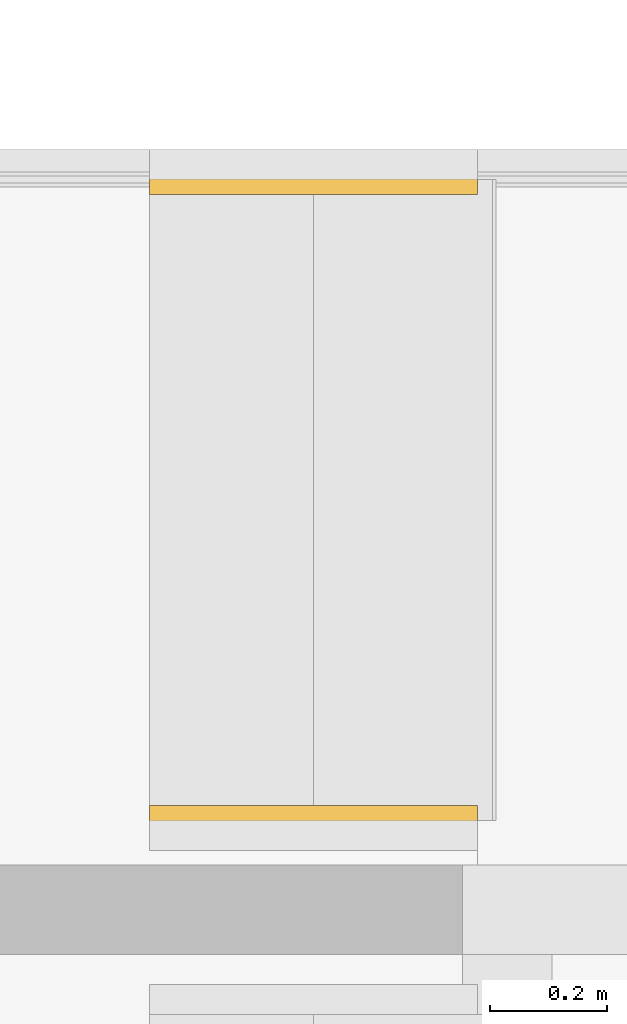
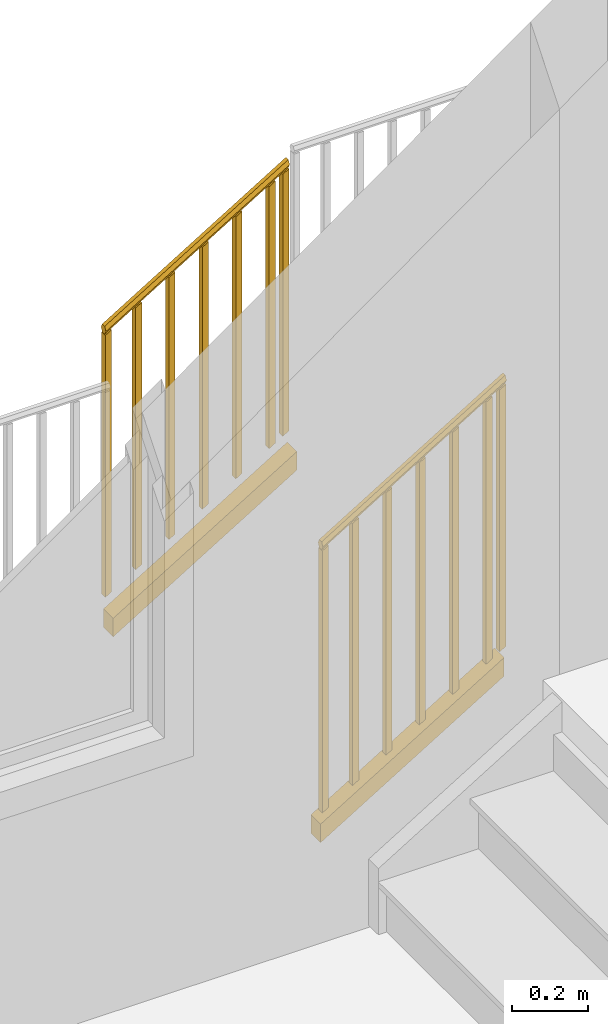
# One storey, part 12 of 21: 2 railings, 1 element without a shape of its own.
"""IFC2X3 building model written with IfcOpenShell, lengths in feet."""

from ifc_helpers import new_model, entity, si_unit, converted_unit, derived_unit, direction, frame, origin, place, context, subcontext, project, spatial, faceted_brep, element, aggregate, save


model = new_model("IFC2X3")

# Units and contexts
model_context = context("Model", 3, precision=0.0001, world=origin(), true_north=direction((6.12303176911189e-17, 1.0)))
body_context = subcontext(model_context, "Body", "Model", "MODEL_VIEW")
ifc_project = project(units=[converted_unit("LENGTHUNIT", "FOOT", entity("IfcRatioMeasure", 0.3048), si_unit("LENGTHUNIT", "METRE"), dimensions=[1, 0, 0, 0, 0, 0, 0]), converted_unit("AREAUNIT", "SQUARE FOOT", entity("IfcRatioMeasure", 0.09290304), si_unit("AREAUNIT", "SQUARE_METRE"), dimensions=[2, 0, 0, 0, 0, 0, 0]), converted_unit("VOLUMEUNIT", "CUBIC FOOT", entity("IfcRatioMeasure", 0.028316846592), si_unit("VOLUMEUNIT", "CUBIC_METRE"), dimensions=[3, 0, 0, 0, 0, 0, 0]), converted_unit("PLANEANGLEUNIT", "DEGREE", entity("IfcRatioMeasure", 0.0174532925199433), si_unit("PLANEANGLEUNIT", "RADIAN"), dimensions=[0, 0, 0, 0, 0, 0, 0]), si_unit("MASSUNIT", "GRAM", prefix="KILO"), derived_unit("MASSDENSITYUNIT", [(si_unit("MASSUNIT", "GRAM", prefix="KILO"), 1), (si_unit("LENGTHUNIT", "METRE"), -3)]), si_unit("TIMEUNIT", "SECOND"), si_unit("FREQUENCYUNIT", "HERTZ"), si_unit("THERMODYNAMICTEMPERATUREUNIT", "DEGREE_CELSIUS"), derived_unit("THERMALTRANSMITTANCEUNIT", [(si_unit("MASSUNIT", "GRAM", prefix="KILO"), 1), (si_unit("THERMODYNAMICTEMPERATUREUNIT", "KELVIN"), -1), (si_unit("TIMEUNIT", "SECOND"), -3)]), derived_unit("VOLUMETRICFLOWRATEUNIT", [(si_unit("LENGTHUNIT", "METRE"), 3), (si_unit("TIMEUNIT", "SECOND"), -1)]), si_unit("ELECTRICCURRENTUNIT", "AMPERE"), si_unit("ELECTRICVOLTAGEUNIT", "VOLT"), si_unit("POWERUNIT", "WATT"), si_unit("FORCEUNIT", "NEWTON"), si_unit("ILLUMINANCEUNIT", "LUX"), si_unit("LUMINOUSFLUXUNIT", "LUMEN"), si_unit("LUMINOUSINTENSITYUNIT", "CANDELA"), derived_unit("USERDEFINED", [(si_unit("MASSUNIT", "GRAM", prefix="KILO"), -1), (si_unit("LENGTHUNIT", "METRE"), -2), (si_unit("TIMEUNIT", "SECOND"), 3), (si_unit("LUMINOUSFLUXUNIT", "LUMEN"), 1)]), derived_unit("LINEARVELOCITYUNIT", [(si_unit("LENGTHUNIT", "METRE"), 1), (si_unit("TIMEUNIT", "SECOND"), -1)]), si_unit("PRESSUREUNIT", "PASCAL"), derived_unit("USERDEFINED", [(si_unit("LENGTHUNIT", "METRE"), -2), (si_unit("MASSUNIT", "GRAM", prefix="KILO"), 1), (si_unit("TIMEUNIT", "SECOND"), -2)])], contexts=[model_context])

# Site, building, storey
site_placement = place(None, origin())
site = spatial("IfcSite", under=ifc_project, at=site_placement, Name="表面", CompositionType="ELEMENT")
building_placement = place(site_placement, origin())
building = spatial("IfcBuilding", under=site, at=building_placement, CompositionType="ELEMENT")
storey_placement = place(building_placement, origin())
storey = spatial("IfcBuildingStorey", under=building, at=storey_placement, Name="Level 1", CompositionType="ELEMENT", Elevation=0.0)

# Stair, railings
stair_placement = place(storey_placement, origin())
stair = element("IfcStair", 1, at=stair_placement, inside=storey, Name="楼梯:7\" max riser 11\" tread", ObjectType="楼梯:7\" max riser 11\" tread", ShapeType="NOTDEFINED")
railing_1_placement = place(stair_placement, frame((13.9650869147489, 17.0521598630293, 0.863628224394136)))
railing_1 = element("IfcRailing", 2, at=railing_1_placement, Name="栏杆扶手:Handrail - Rectangular", ObjectType="栏杆扶手:Handrail - Rectangular", PredefinedType="NOTDEFINED", context=body_context, shape_type="Brep", body=[
    faceted_brep([(1.63541666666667, 0.0156504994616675, 4.09458963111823), (1.63541666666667, 0.0781504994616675, 4.09458963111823), (1.63541666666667, 0.0781504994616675, 1.33037211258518), (1.63541666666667, 0.0156504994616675, 1.33037211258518), (1.69791666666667, 0.0156504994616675, 4.1326912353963), (1.69791666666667, 0.0156504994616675, 1.36847371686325), (1.69791666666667, 0.0781504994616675, 4.1326912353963), (1.69791666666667, 0.0781504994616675, 1.36847371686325)], [[[0, 1, 2, 3]], [[4, 0, 3, 5]], [[6, 4, 5, 7]], [[1, 6, 7, 2]], [[1, 0, 4, 6]], [[3, 2, 7, 5]]]),
    faceted_brep([(1.30208333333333, 0.0156504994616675, 3.89138107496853), (1.30208333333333, 0.0781504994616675, 3.89138107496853), (1.30208333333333, 0.0781504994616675, 1.12716355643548), (1.30208333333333, 0.0156504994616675, 1.12716355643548), (1.36458333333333, 0.0156504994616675, 3.9294826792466), (1.36458333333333, 0.0156504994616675, 1.16526516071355), (1.36458333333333, 0.0781504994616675, 3.9294826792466), (1.36458333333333, 0.0781504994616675, 1.16526516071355)], [[[0, 1, 2, 3]], [[4, 0, 3, 5]], [[6, 4, 5, 7]], [[1, 6, 7, 2]], [[1, 0, 4, 6]], [[3, 2, 7, 5]]]),
    faceted_brep([(0.96875, 0.0156504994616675, 3.68817251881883), (0.96875, 0.0781504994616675, 3.68817251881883), (0.96875, 0.0781504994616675, 0.923955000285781), (0.96875, 0.0156504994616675, 0.923955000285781), (1.03125, 0.0156504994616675, 3.7262741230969), (1.03125, 0.0156504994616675, 0.96205660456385), (1.03125, 0.0781504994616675, 3.7262741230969), (1.03125, 0.0781504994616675, 0.96205660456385)], [[[0, 1, 2, 3]], [[4, 0, 3, 5]], [[6, 4, 5, 7]], [[1, 6, 7, 2]], [[1, 0, 4, 6]], [[3, 2, 7, 5]]]),
    faceted_brep([(0.635416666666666, 0.0156504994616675, 3.48496396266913), (0.635416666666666, 0.0781504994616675, 3.48496396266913), (0.635416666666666, 0.0781504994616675, 0.720746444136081), (0.635416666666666, 0.0156504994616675, 0.72074644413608), (0.697916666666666, 0.0156504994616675, 3.5230655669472), (0.697916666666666, 0.0156504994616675, 0.758848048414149), (0.697916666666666, 0.0781504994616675, 3.5230655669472), (0.697916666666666, 0.0781504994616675, 0.758848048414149)], [[[0, 1, 2, 3]], [[4, 0, 3, 5]], [[6, 4, 5, 7]], [[1, 6, 7, 2]], [[1, 0, 4, 6]], [[3, 2, 7, 5]]]),
    faceted_brep([(0.302083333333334, 0.0156504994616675, 3.28175540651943), (0.302083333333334, 0.0781504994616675, 3.28175540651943), (0.302083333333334, 0.0781504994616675, 0.517537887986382), (0.302083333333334, 0.0156504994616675, 0.517537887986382), (0.364583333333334, 0.0156504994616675, 3.3198570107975), (0.364583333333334, 0.0156504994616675, 0.555639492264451), (0.364583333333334, 0.0781504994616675, 3.3198570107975), (0.364583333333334, 0.0781504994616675, 0.555639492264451)], [[[0, 1, 2, 3]], [[4, 0, 3, 5]], [[6, 4, 5, 7]], [[1, 6, 7, 2]], [[1, 0, 4, 6]], [[3, 2, 7, 5]]]),
    faceted_brep([(1.77083333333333, 0.0156504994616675, 4.17714310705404), (1.77083333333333, 0.0781504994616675, 4.17714310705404), (1.77083333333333, 0.0781504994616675, 1.41292558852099), (1.77083333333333, 0.0156504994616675, 1.41292558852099), (1.83333333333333, 0.0156504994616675, 4.21524471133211), (1.83333333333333, 0.0156504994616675, 1.45102719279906), (1.83333333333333, 0.0781504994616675, 4.21524471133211), (1.83333333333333, 0.0781504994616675, 1.45102719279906)], [[[0, 1, 2, 3]], [[4, 0, 3, 5]], [[6, 4, 5, 7]], [[1, 6, 7, 2]], [[1, 0, 4, 6]], [[3, 2, 7, 5]]]),
    faceted_brep([(0.0, 0.0156504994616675, 3.09759765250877), (0.0, 0.0781504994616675, 3.09759765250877), (0.0, 0.0781504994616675, 0.333380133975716), (0.0, 0.0156504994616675, 0.333380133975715), (0.0625, 0.0156504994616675, 3.13569925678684), (0.0625, 0.0156504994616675, 0.371481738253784), (0.0625, 0.0781504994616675, 3.13569925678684), (0.0625, 0.0781504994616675, 0.371481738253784)], [[[0, 1, 2, 3]], [[4, 0, 3, 5]], [[6, 4, 5, 7]], [[1, 6, 7, 2]], [[1, 0, 4, 6]], [[3, 2, 7, 5]]]),
    faceted_brep([(0.0, 0.213567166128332, 0.195195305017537), (0.0, 0.213567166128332, 0.0), (0.0, 0.0469004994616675, 0.0), (0.0, 0.0469004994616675, 0.195195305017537), (1.83333333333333, 0.213567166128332, 1.31284236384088), (1.83333333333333, 0.046900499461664, 1.31284236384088), (1.83333333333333, 0.0469004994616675, 1.11764705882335), (1.83333333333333, 0.213567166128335, 1.11764705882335)], [[[0, 1, 2, 3]], [[4, 5, 6, 7]], [[2, 1, 7, 6]], [[1, 0, 4, 7]], [[3, 2, 6, 5]], [[0, 3, 5, 4]]]),
    faceted_brep([(0.0, 0.0677338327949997, 3.18865750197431), (0.0, 0.0885671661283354, 3.14639647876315), (0.0, 0.0677338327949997, 3.10413545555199), (0.0, 0.0260671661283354, 3.10413545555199), (0.0, 0.00523383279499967, 3.14639647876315), (0.0, 0.0260671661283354, 3.18865750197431), (1.83333333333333, 0.0260671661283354, 4.30630456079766), (1.83333333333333, 0.00523383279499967, 4.2640435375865), (1.83333333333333, 0.0260671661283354, 4.22178251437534), (1.83333333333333, 0.0677338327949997, 4.22178251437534), (1.83333333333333, 0.0885671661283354, 4.2640435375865), (1.83333333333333, 0.0677338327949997, 4.30630456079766)], [[[0, 1, 2, 3, 4, 5]], [[6, 7, 8, 9, 10, 11]], [[10, 9, 2, 1]], [[9, 8, 3, 2]], [[8, 7, 4, 3]], [[7, 6, 5, 4]], [[6, 11, 0, 5]], [[11, 10, 1, 0]]]),
])
railing_2_placement = place(stair_placement, frame((13.9650869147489, 20.6823936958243, 0.863628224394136)))
railing_2 = element("IfcRailing", 3, at=railing_2_placement, Name="栏杆扶手:Handrail - Rectangular", ObjectType="栏杆扶手:Handrail - Rectangular", PredefinedType="NOTDEFINED", context=body_context, shape_type="Brep", body=[
    faceted_brep([(1.63541666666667, 0.197916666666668, 4.09458963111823), (1.63541666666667, 0.197916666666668, 1.33037211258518), (1.63541666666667, 0.135416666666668, 1.33037211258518), (1.63541666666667, 0.135416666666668, 4.09458963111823), (1.69791666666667, 0.197916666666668, 4.1326912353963), (1.69791666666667, 0.197916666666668, 1.36847371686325), (1.69791666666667, 0.135416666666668, 4.1326912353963), (1.69791666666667, 0.135416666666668, 1.36847371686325)], [[[0, 1, 2, 3]], [[4, 5, 1, 0]], [[6, 7, 5, 4]], [[3, 2, 7, 6]], [[3, 6, 4, 0]], [[1, 5, 7, 2]]]),
    faceted_brep([(1.30208333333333, 0.197916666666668, 3.89138107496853), (1.30208333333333, 0.197916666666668, 1.12716355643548), (1.30208333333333, 0.135416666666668, 1.12716355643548), (1.30208333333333, 0.135416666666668, 3.89138107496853), (1.36458333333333, 0.197916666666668, 3.9294826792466), (1.36458333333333, 0.197916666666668, 1.16526516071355), (1.36458333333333, 0.135416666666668, 3.9294826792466), (1.36458333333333, 0.135416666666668, 1.16526516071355)], [[[0, 1, 2, 3]], [[4, 5, 1, 0]], [[6, 7, 5, 4]], [[3, 2, 7, 6]], [[3, 6, 4, 0]], [[1, 5, 7, 2]]]),
    faceted_brep([(0.96875, 0.197916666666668, 3.68817251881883), (0.96875, 0.197916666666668, 0.923955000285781), (0.96875, 0.135416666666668, 0.923955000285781), (0.96875, 0.135416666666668, 3.68817251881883), (1.03125, 0.197916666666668, 3.7262741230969), (1.03125, 0.197916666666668, 0.96205660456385), (1.03125, 0.135416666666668, 3.7262741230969), (1.03125, 0.135416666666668, 0.96205660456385)], [[[0, 1, 2, 3]], [[4, 5, 1, 0]], [[6, 7, 5, 4]], [[3, 2, 7, 6]], [[3, 6, 4, 0]], [[1, 5, 7, 2]]]),
    faceted_brep([(0.635416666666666, 0.197916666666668, 3.48496396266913), (0.635416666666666, 0.197916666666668, 0.720746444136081), (0.635416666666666, 0.135416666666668, 0.72074644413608), (0.635416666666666, 0.135416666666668, 3.48496396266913), (0.697916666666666, 0.197916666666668, 3.5230655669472), (0.697916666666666, 0.197916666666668, 0.75884804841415), (0.697916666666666, 0.135416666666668, 3.5230655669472), (0.697916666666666, 0.135416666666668, 0.75884804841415)], [[[0, 1, 2, 3]], [[4, 5, 1, 0]], [[6, 7, 5, 4]], [[3, 2, 7, 6]], [[3, 6, 4, 0]], [[1, 5, 7, 2]]]),
    faceted_brep([(0.302083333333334, 0.197916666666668, 3.28175540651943), (0.302083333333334, 0.197916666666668, 0.517537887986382), (0.302083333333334, 0.135416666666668, 0.517537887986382), (0.302083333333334, 0.135416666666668, 3.28175540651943), (0.364583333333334, 0.197916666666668, 3.3198570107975), (0.364583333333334, 0.197916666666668, 0.555639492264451), (0.364583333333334, 0.135416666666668, 3.3198570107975), (0.364583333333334, 0.135416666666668, 0.555639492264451)], [[[0, 1, 2, 3]], [[4, 5, 1, 0]], [[6, 7, 5, 4]], [[3, 2, 7, 6]], [[3, 6, 4, 0]], [[1, 5, 7, 2]]]),
    faceted_brep([(1.77083333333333, 0.197916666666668, 4.17714310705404), (1.77083333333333, 0.197916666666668, 1.41292558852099), (1.77083333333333, 0.135416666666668, 1.41292558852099), (1.77083333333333, 0.135416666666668, 4.17714310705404), (1.83333333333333, 0.197916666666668, 4.21524471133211), (1.83333333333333, 0.197916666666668, 1.45102719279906), (1.83333333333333, 0.135416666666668, 4.21524471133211), (1.83333333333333, 0.135416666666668, 1.45102719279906)], [[[0, 1, 2, 3]], [[4, 5, 1, 0]], [[6, 7, 5, 4]], [[3, 2, 7, 6]], [[3, 6, 4, 0]], [[1, 5, 7, 2]]]),
    faceted_brep([(0.0, 0.197916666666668, 3.09759765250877), (0.0, 0.197916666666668, 0.333380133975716), (0.0, 0.135416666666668, 0.333380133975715), (0.0, 0.135416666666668, 3.09759765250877), (0.0625, 0.197916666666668, 3.13569925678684), (0.0625, 0.197916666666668, 0.371481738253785), (0.0625, 0.135416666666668, 3.13569925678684), (0.0625, 0.135416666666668, 0.371481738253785)], [[[0, 1, 2, 3]], [[4, 5, 1, 0]], [[6, 7, 5, 4]], [[3, 2, 7, 6]], [[3, 6, 4, 0]], [[1, 5, 7, 2]]]),
    faceted_brep([(0.0, 0.0, 0.195195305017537), (0.0, 0.166666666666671, 0.195195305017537), (0.0, 0.166666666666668, 0.0), (0.0, 0.0, 0.0), (1.83333333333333, 0.0, 1.31284236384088), (1.83333333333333, 0.0, 1.11764705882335), (1.83333333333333, 0.166666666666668, 1.11764705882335), (1.83333333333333, 0.166666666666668, 1.31284236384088)], [[[0, 1, 2, 3]], [[4, 5, 6, 7]], [[0, 3, 5, 4]], [[3, 2, 6, 5]], [[1, 0, 4, 7]], [[2, 1, 7, 6]]]),
    faceted_brep([(0.0, 0.208333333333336, 3.14639647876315), (0.0, 0.1875, 3.10413545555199), (0.0, 0.145833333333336, 3.10413545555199), (0.0, 0.125, 3.14639647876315), (0.0, 0.145833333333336, 3.18865750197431), (0.0, 0.1875, 3.18865750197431), (1.83333333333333, 0.145833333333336, 4.30630456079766), (1.83333333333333, 0.125, 4.2640435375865), (1.83333333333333, 0.145833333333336, 4.22178251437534), (1.83333333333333, 0.1875, 4.22178251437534), (1.83333333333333, 0.208333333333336, 4.2640435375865), (1.83333333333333, 0.1875, 4.30630456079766)], [[[0, 1, 2, 3, 4, 5]], [[6, 7, 8, 9, 10, 11]], [[7, 6, 4, 3]], [[6, 11, 5, 4]], [[11, 10, 0, 5]], [[10, 9, 1, 0]], [[9, 8, 2, 1]], [[8, 7, 3, 2]]]),
])
aggregate(stair, [railing_1, railing_2])

save(model, "model.ifc")
